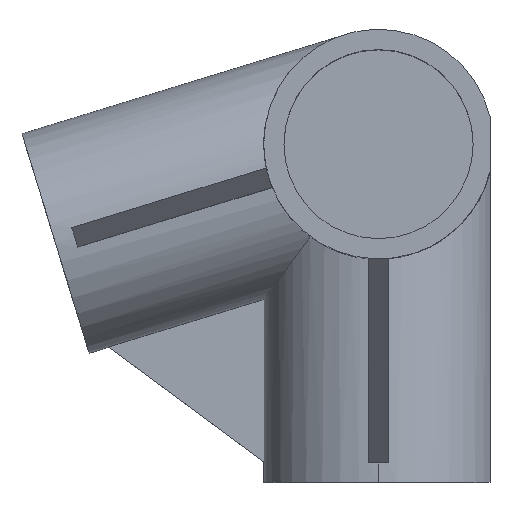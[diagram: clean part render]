
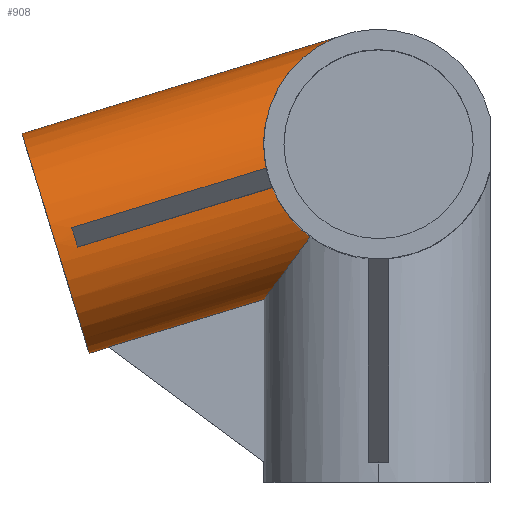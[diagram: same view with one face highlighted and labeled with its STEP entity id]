
A CAD part, top view. The second image highlights one B-rep face of the part: STEP entity #908.
In plain terms, the highlighted cylindrical face has radius 17 mm (diameter 34 mm), a partial arc.
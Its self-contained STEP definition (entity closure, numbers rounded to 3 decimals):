
#11 = CARTESIAN_POINT ( 'NONE',  ( -44.571, -15.195, 16.934 ) ) ;
#31 = DIRECTION ( 'NONE',  ( 0.956, 0.292, 0. ) ) ;
#35 =( BOUNDED_CURVE ( )  B_SPLINE_CURVE ( 3, ( #114, #427, #332, #745 ),
 .UNSPECIFIED., .F., .F. ) 
 B_SPLINE_CURVE_WITH_KNOTS ( ( 4, 4 ),
 ( 3.23, 3.779 ),
 .UNSPECIFIED. ) 
 CURVE ( )  GEOMETRIC_REPRESENTATION_ITEM ( )  RATIONAL_B_SPLINE_CURVE ( ( 1., 0.975, 0.975, 1. ) ) 
 REPRESENTATION_ITEM ( '' )  );
#37 = ORIENTED_EDGE ( 'NONE', *, *, #973, .T. ) ;
#45 = CARTESIAN_POINT ( 'NONE',  ( -44.779, -14.214, 17.022 ) ) ;
#60 = EDGE_CURVE ( 'NONE', #158, #433, #394, .T. ) ;
#62 = VERTEX_POINT ( 'NONE', #320 ) ;
#65 = VERTEX_POINT ( 'NONE', #947 ) ;
#72 =( BOUNDED_CURVE ( )  B_SPLINE_CURVE ( 3, ( #359, #364, #270, #118 ),
 .UNSPECIFIED., .F., .T. ) 
 B_SPLINE_CURVE_WITH_KNOTS ( ( 4, 4 ),
 ( 2.845, 3.053 ),
 .UNSPECIFIED. ) 
 CURVE ( )  GEOMETRIC_REPRESENTATION_ITEM ( )  RATIONAL_B_SPLINE_CURVE ( ( 1., 0.996, 0.996, 1. ) ) 
 REPRESENTATION_ITEM ( '' )  );
#83 = VERTEX_POINT ( 'NONE', #163 ) ;
#91 = DIRECTION ( 'NONE',  ( -0.956, -0.292, 0. ) ) ;
#104 = VERTEX_POINT ( 'NONE', #813 ) ;
#105 = VECTOR ( 'NONE', #31, 1000. ) ;
#111 = DIRECTION ( 'NONE',  ( -0.956, -0.292, 0. ) ) ;
#114 = CARTESIAN_POINT ( 'NONE',  ( -15.755, -6.385, 16.934 ) ) ;
#118 = CARTESIAN_POINT ( 'NONE',  ( -16.632, -3.516, 16.934 ) ) ;
#123 = EDGE_CURVE ( 'NONE', #172, #450, #956, .T. ) ;
#138 = ORIENTED_EDGE ( 'NONE', *, *, #147, .F. ) ;
#142 = EDGE_LOOP ( 'NONE', ( #375, #283, #625, #742, #251, #465, #814, #927, #138, #233, #37, #861 ) ) ;
#147 = EDGE_CURVE ( 'NONE', #347, #728, #195, .T. ) ;
#156 = CARTESIAN_POINT ( 'NONE',  ( -17., 7.755, 13.99 ) ) ;
#158 = VERTEX_POINT ( 'NONE', #904 ) ;
#162 = EDGE_CURVE ( 'NONE', #172, #519, #199, .T. ) ;
#163 = CARTESIAN_POINT ( 'NONE',  ( -4.97, 16.257, 0. ) ) ;
#172 = VERTEX_POINT ( 'NONE', #809 ) ;
#185 =( BOUNDED_CURVE ( )  B_SPLINE_CURVE ( 3, ( #980, #584, #593, #495 ),
 .UNSPECIFIED., .F., .F. ) 
 B_SPLINE_CURVE_WITH_KNOTS ( ( 4, 4 ),
 ( 3.142, 3.23 ),
 .UNSPECIFIED. ) 
 CURVE ( )  GEOMETRIC_REPRESENTATION_ITEM ( )  RATIONAL_B_SPLINE_CURVE ( ( 1., 0.999, 0.999, 1. ) ) 
 REPRESENTATION_ITEM ( '' )  );
#195 = LINE ( 'NONE', #982, #105 ) ;
#199 = LINE ( 'NONE', #656, #870 ) ;
#233 = ORIENTED_EDGE ( 'NONE', *, *, #681, .T. ) ;
#251 = ORIENTED_EDGE ( 'NONE', *, *, #894, .T. ) ;
#253 = VECTOR ( 'NONE', #317, 1000. ) ;
#270 = CARTESIAN_POINT ( 'NONE',  ( -16.877, -2.359, 16.829 ) ) ;
#276 = CARTESIAN_POINT ( 'NONE',  ( 0., 0., 0. ) ) ;
#283 = ORIENTED_EDGE ( 'NONE', *, *, #441, .T. ) ;
#307 = AXIS2_PLACEMENT_3D ( 'NONE', #648, #967, #981 ) ;
#311 = CARTESIAN_POINT ( 'NONE',  ( -4.97, 16.257, 0. ) ) ;
#317 = DIRECTION ( 'NONE',  ( -0.956, -0.292, 0. ) ) ;
#320 = CARTESIAN_POINT ( 'NONE',  ( -52.786, 1.639, 0. ) ) ;
#332 = CARTESIAN_POINT ( 'NONE',  ( -12.643, -11.793, 15.539 ) ) ;
#343 = EDGE_CURVE ( 'NONE', #83, #104, #455, .T. ) ;
#347 = VERTEX_POINT ( 'NONE', #11 ) ;
#357 = DIRECTION ( 'NONE',  ( -0.956, -0.292, 0. ) ) ;
#359 = CARTESIAN_POINT ( 'NONE',  ( -17., 0., 16.257 ) ) ;
#364 = CARTESIAN_POINT ( 'NONE',  ( -17., -1.183, 16.603 ) ) ;
#374 = VECTOR ( 'NONE', #518, 1000. ) ;
#375 = ORIENTED_EDGE ( 'NONE', *, *, #343, .F. ) ;
#380 = CARTESIAN_POINT ( 'NONE',  ( -0.439, 1.434, 16.934 ) ) ;
#394 = LINE ( 'NONE', #559, #253 ) ;
#397 = CARTESIAN_POINT ( 'NONE',  ( -12.387, 13.99, 7.755 ) ) ;
#427 = CARTESIAN_POINT ( 'NONE',  ( -14.572, -9.304, 16.656 ) ) ;
#433 = VERTEX_POINT ( 'NONE', #468 ) ;
#441 = EDGE_CURVE ( 'NONE', #83, #62, #859, .T. ) ;
#447 = LINE ( 'NONE', #380, #374 ) ;
#450 = VERTEX_POINT ( 'NONE', #542 ) ;
#453 = CARTESIAN_POINT ( 'NONE',  ( -45.072, -13.256, 17.022 ) ) ;
#455 =( BOUNDED_CURVE ( )  B_SPLINE_CURVE ( 3, ( #478, #397, #156, #946 ),
 .UNSPECIFIED., .F., .T. ) 
 B_SPLINE_CURVE_WITH_KNOTS ( ( 4, 4 ),
 ( 1.571, 2.845 ),
 .UNSPECIFIED. ) 
 CURVE ( )  GEOMETRIC_REPRESENTATION_ITEM ( )  RATIONAL_B_SPLINE_CURVE ( ( 1., 0.869, 0.869, 1. ) ) 
 REPRESENTATION_ITEM ( '' )  );
#465 = ORIENTED_EDGE ( 'NONE', *, *, #162, .F. ) ;
#468 = CARTESIAN_POINT ( 'NONE',  ( -42.845, -30.876, 0. ) ) ;
#478 = CARTESIAN_POINT ( 'NONE',  ( -4.97, 16.257, 0. ) ) ;
#486 = AXIS2_PLACEMENT_3D ( 'NONE', #276, #111, #906 ) ;
#495 = CARTESIAN_POINT ( 'NONE',  ( -40.042, -29.95, 1.5 ) ) ;
#497 = CARTESIAN_POINT ( 'NONE',  ( -14.082, -19.031, 10.728 ) ) ;
#498 = VERTEX_POINT ( 'NONE', #817 ) ;
#499 = CYLINDRICAL_SURFACE ( 'NONE', #486, 17. ) ;
#515 = CIRCLE ( 'NONE', #307, 17. ) ;
#518 = DIRECTION ( 'NONE',  ( 0.956, 0.292, 0. ) ) ;
#519 = VERTEX_POINT ( 'NONE', #575 ) ;
#542 = CARTESIAN_POINT ( 'NONE',  ( -10.112, -13.666, 13.666 ) ) ;
#547 = EDGE_CURVE ( 'NONE', #728, #450, #35, .T. ) ;
#559 = CARTESIAN_POINT ( 'NONE',  ( 4.97, -16.257, 0. ) ) ;
#569 = EDGE_CURVE ( 'NONE', #433, #62, #515, .T. ) ;
#575 = CARTESIAN_POINT ( 'NONE',  ( -40.042, -29.95, 1.5 ) ) ;
#577 = CARTESIAN_POINT ( 'NONE',  ( -16.934, -22.885, 1.5 ) ) ;
#584 = CARTESIAN_POINT ( 'NONE',  ( -39.976, -29.999, 0.501 ) ) ;
#593 = CARTESIAN_POINT ( 'NONE',  ( -39.998, -29.982, 1.001 ) ) ;
#616 = CARTESIAN_POINT ( 'NONE',  ( -44.571, -15.195, 16.934 ) ) ;
#625 = ORIENTED_EDGE ( 'NONE', *, *, #569, .F. ) ;
#648 = CARTESIAN_POINT ( 'NONE',  ( -47.815, -14.619, 0. ) ) ;
#656 = CARTESIAN_POINT ( 'NONE',  ( 4.951, -16.194, 1.5 ) ) ;
#678 =( BOUNDED_CURVE ( )  B_SPLINE_CURVE ( 3, ( #616, #45, #453, #1014 ),
 .UNSPECIFIED., .F., .T. ) 
 B_SPLINE_CURVE_WITH_KNOTS ( ( 4, 4 ),
 ( 3.053, 3.23 ),
 .UNSPECIFIED. ) 
 CURVE ( )  GEOMETRIC_REPRESENTATION_ITEM ( )  RATIONAL_B_SPLINE_CURVE ( ( 1., 0.997, 0.997, 1. ) ) 
 REPRESENTATION_ITEM ( '' )  );
#681 = EDGE_CURVE ( 'NONE', #347, #498, #678, .T. ) ;
#705 = CARTESIAN_POINT ( 'NONE',  ( -15.755, -6.385, 16.934 ) ) ;
#728 = VERTEX_POINT ( 'NONE', #705 ) ;
#742 = ORIENTED_EDGE ( 'NONE', *, *, #60, .F. ) ;
#745 = CARTESIAN_POINT ( 'NONE',  ( -10.112, -13.666, 13.666 ) ) ;
#746 = CARTESIAN_POINT ( 'NONE',  ( -10.112, -13.666, 13.666 ) ) ;
#749 = FACE_OUTER_BOUND ( 'NONE', #142, .T. ) ;
#809 = CARTESIAN_POINT ( 'NONE',  ( -16.934, -22.885, 1.5 ) ) ;
#813 = CARTESIAN_POINT ( 'NONE',  ( -17., 0., 16.257 ) ) ;
#814 = ORIENTED_EDGE ( 'NONE', *, *, #123, .T. ) ;
#817 = CARTESIAN_POINT ( 'NONE',  ( -45.448, -12.326, 16.934 ) ) ;
#847 = EDGE_CURVE ( 'NONE', #104, #65, #72, .T. ) ;
#859 = LINE ( 'NONE', #311, #949 ) ;
#861 = ORIENTED_EDGE ( 'NONE', *, *, #847, .F. ) ;
#870 = VECTOR ( 'NONE', #357, 1000. ) ;
#890 = CARTESIAN_POINT ( 'NONE',  ( -16.498, -22.296, 6.42 ) ) ;
#894 = EDGE_CURVE ( 'NONE', #158, #519, #185, .T. ) ;
#904 = CARTESIAN_POINT ( 'NONE',  ( -39.976, -29.999, 0. ) ) ;
#906 = DIRECTION ( 'NONE',  ( 0.292, -0.956, 0. ) ) ;
#908 = ADVANCED_FACE ( 'NONE', ( #749 ), #499, .T. ) ;
#927 = ORIENTED_EDGE ( 'NONE', *, *, #547, .F. ) ;
#946 = CARTESIAN_POINT ( 'NONE',  ( -17., 0., 16.257 ) ) ;
#947 = CARTESIAN_POINT ( 'NONE',  ( -16.632, -3.516, 16.934 ) ) ;
#949 = VECTOR ( 'NONE', #91, 1000. ) ;
#956 =( BOUNDED_CURVE ( )  B_SPLINE_CURVE ( 3, ( #577, #890, #497, #746 ),
 .UNSPECIFIED., .F., .F. ) 
 B_SPLINE_CURVE_WITH_KNOTS ( ( 4, 4 ),
 ( 3.23, 4.075 ),
 .UNSPECIFIED. ) 
 CURVE ( )  GEOMETRIC_REPRESENTATION_ITEM ( )  RATIONAL_B_SPLINE_CURVE ( ( 1., 0.941, 0.941, 1. ) ) 
 REPRESENTATION_ITEM ( '' )  );
#967 = DIRECTION ( 'NONE',  ( -0.956, -0.292, 0. ) ) ;
#973 = EDGE_CURVE ( 'NONE', #498, #65, #447, .T. ) ;
#980 = CARTESIAN_POINT ( 'NONE',  ( -39.976, -29.999, 0. ) ) ;
#981 = DIRECTION ( 'NONE',  ( 0.292, -0.956, 0. ) ) ;
#982 = CARTESIAN_POINT ( 'NONE',  ( 0.439, -1.434, 16.934 ) ) ;
#1014 = CARTESIAN_POINT ( 'NONE',  ( -45.448, -12.326, 16.934 ) ) ;
